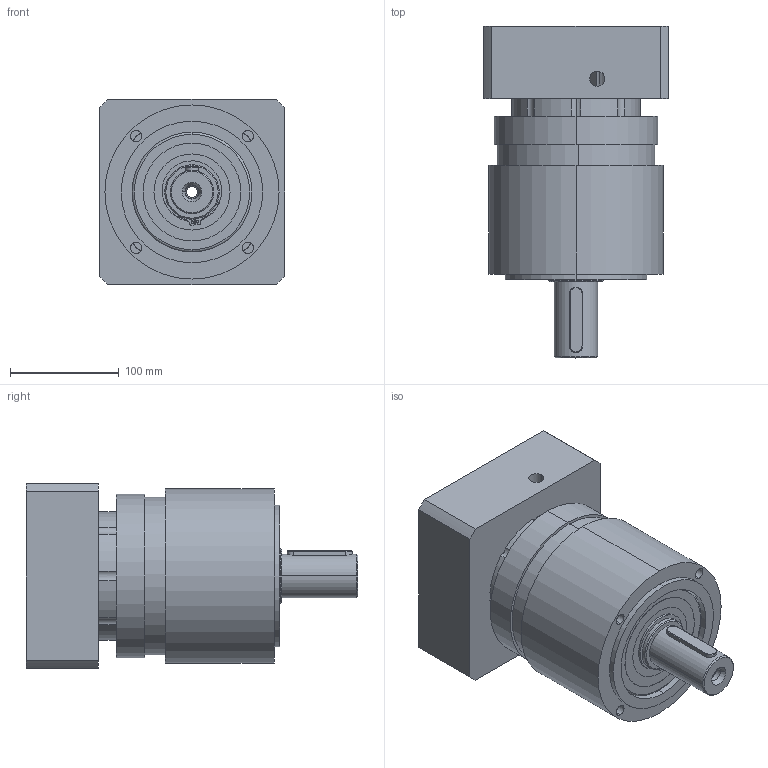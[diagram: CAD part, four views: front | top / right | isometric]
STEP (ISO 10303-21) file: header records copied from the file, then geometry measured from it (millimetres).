
FILE_DESCRIPTION (( 'STEP AP214' ), '1' );
FILE_NAME ('150珨撰38粣.STEP', '2017-04-16T14:04:18', ( '' ), ( '' ), 'SwSTEP 2.0', 'SolidWorks 2016', '' );
FILE_SCHEMA (( 'AUTOMOTIVE_DESIGN' ));
Length unit declared in the file: millimetre
Products named in the file (1): 150珨撰38粣
Bounding box: 170 x 304.85 x 170 mm (x, y, z)
Surface area: 285507.9 mm2 (no closed solid volume)
Topology: 0 solids, 12 shells, 169 faces, 572 edges, 404 vertices
Faces by surface type: cylinder 117, plane 34, cone 14, torus 4
Entity records: 8544 total; most frequent: CARTESIAN_POINT 1474, DIRECTION 1226, ORIENTED_EDGE 935, EDGE_CURVE 572, AXIS2_PLACEMENT_3D 512, VERTEX_POINT 404, CIRCLE 342, EDGE_LOOP 206
